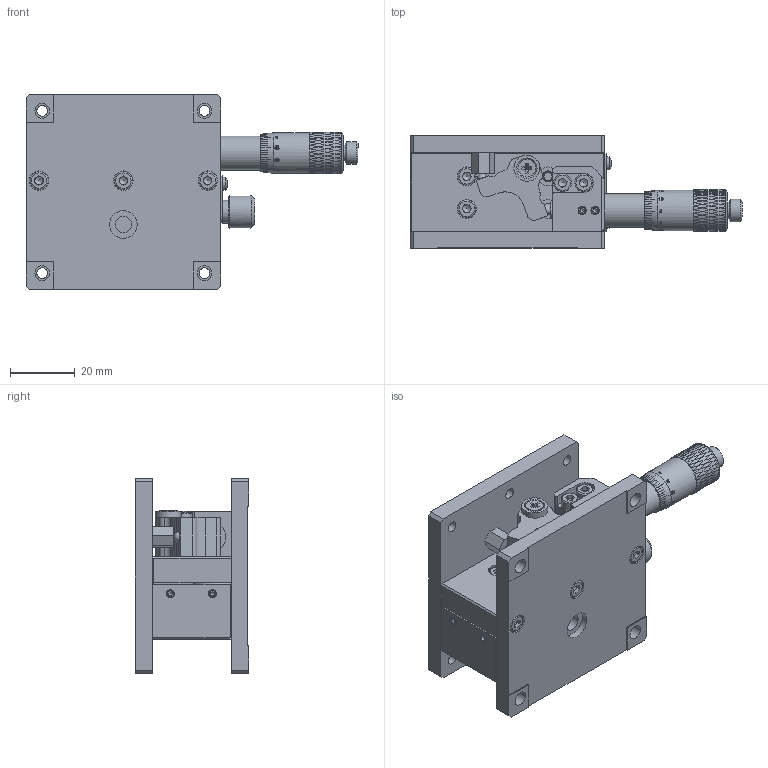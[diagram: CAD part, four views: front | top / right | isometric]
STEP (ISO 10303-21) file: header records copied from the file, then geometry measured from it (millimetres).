
FILE_DESCRIPTION (( 'STEP AP203' ), '1' );
FILE_NAME ('BLEZ60.STEP', '2024-07-02T01:17:52', ( 'Windows User' ), ( 'P R C' ), 'SwSTEP 2.0', 'SolidWorks 2024', '' );
FILE_SCHEMA (( 'CONFIG_CONTROL_DESIGN' ));
Length unit declared in the file: millimetre
Products named in the file (1): BLEZ60
Bounding box: 102.27 x 35 x 60 mm (x, y, z)
Volume: 77936.4 mm3; surface area: 48542.8 mm2
Topology: 36 solids, 36 shells, 1598 faces, 3837 edges, 2444 vertices
Faces by surface type: plane 611, cylinder 407, bspline 369, cone 190, torus 17, sphere 4
Full cylindrical faces by diameter (mm): 1.6 x2, 2 x2, 2.4 x2, 2.5 x19, 2.55 x8, 2.95 x9, 3 x15, 3.2 x5, 3.3 x9, 3.4 x11, 4 x2, 4.4 x8, 4.5 x4, 5 x4, 5.5 x17, 5.8 x4, 6 x10, 7 x2, 8 x1, 8.5 x2, 9.5 x2, 10 x1, 10.5 x1, 12.5 x1
Entity records: 65311 total; most frequent: CARTESIAN_POINT 33591, ORIENTED_EDGE 7040, DIRECTION 5047, EDGE_CURVE 3520, VERTEX_POINT 2363, EDGE_LOOP 2061, AXIS2_PLACEMENT_3D 1952, FACE_OUTER_BOUND 1737
